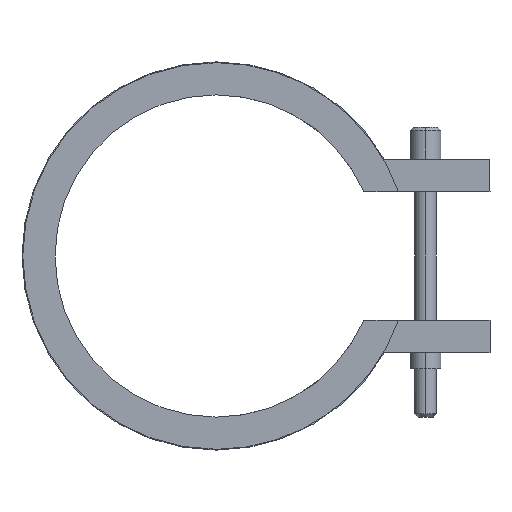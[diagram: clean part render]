
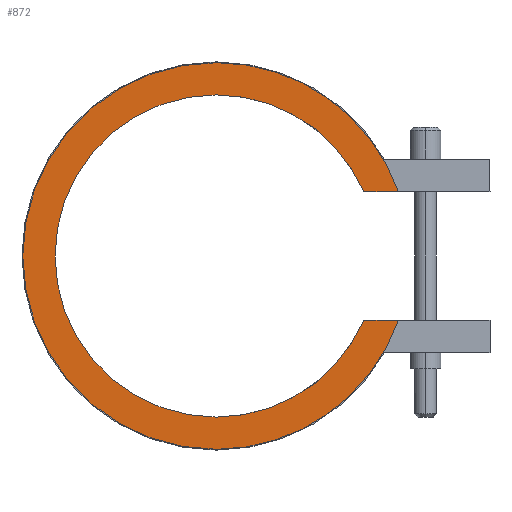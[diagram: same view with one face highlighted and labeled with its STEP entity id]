
A CAD part, left-side view. The second image highlights one B-rep face of the part: STEP entity #872.
In plain terms, the highlighted planar face has unit normal (-1, 0, 0).
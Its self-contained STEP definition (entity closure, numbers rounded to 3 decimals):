
#410=CARTESIAN_POINT('Vertex',(-20.,-18.33,-8.)) ;
#413=CARTESIAN_POINT('Line Origine',(-20.,-20.479,-8.)) ;
#417=CARTESIAN_POINT('Vertex',(-20.,-22.627,-8.)) ;
#463=CARTESIAN_POINT('Vertex',(-20.,0.,-24.)) ;
#466=CARTESIAN_POINT('Axis2P3D Location',(-20.,0.,0.)) ;
#487=CARTESIAN_POINT('Vertex',(-20.,0.,24.)) ;
#490=CARTESIAN_POINT('Axis2P3D Location',(-20.,0.,0.)) ;
#502=CARTESIAN_POINT('Axis2P3D Location',(-20.,0.,0.)) ;
#506=CARTESIAN_POINT('Vertex',(-20.,-22.627,8.)) ;
#526=CARTESIAN_POINT('Line Origine',(-20.,-20.479,8.)) ;
#530=CARTESIAN_POINT('Vertex',(-20.,-18.33,8.)) ;
#818=CARTESIAN_POINT('Axis2P3D Location',(-20.,0.,0.)) ;
#822=CARTESIAN_POINT('Vertex',(-20.,0.,-20.)) ;
#845=CARTESIAN_POINT('Axis2P3D Location',(-20.,0.,0.)) ;
#850=CARTESIAN_POINT('Axis2P3D Location',(-20.,0.,0.)) ;
#854=CARTESIAN_POINT('Vertex',(-20.,0.,20.)) ;
#857=CARTESIAN_POINT('Axis2P3D Location',(-20.,0.,0.)) ;
#414=DIRECTION('Vector Direction',(0.,1.,0.)) ;
#467=DIRECTION('Axis2P3D Direction',(1.,0.,-0.)) ;
#491=DIRECTION('Axis2P3D Direction',(1.,0.,-0.)) ;
#503=DIRECTION('Axis2P3D Direction',(1.,0.,-0.)) ;
#527=DIRECTION('Vector Direction',(0.,-1.,0.)) ;
#819=DIRECTION('Axis2P3D Direction',(1.,0.,-0.)) ;
#846=DIRECTION('Axis2P3D Direction',(1.,0.,0.)) ;
#847=DIRECTION('Axis2P3D XDirection',(0.,0.,-1.)) ;
#851=DIRECTION('Axis2P3D Direction',(1.,0.,0.)) ;
#858=DIRECTION('Axis2P3D Direction',(1.,0.,0.)) ;
#468=AXIS2_PLACEMENT_3D('Circle Axis2P3D',#466,#467,$) ;
#492=AXIS2_PLACEMENT_3D('Circle Axis2P3D',#490,#491,$) ;
#504=AXIS2_PLACEMENT_3D('Circle Axis2P3D',#502,#503,$) ;
#820=AXIS2_PLACEMENT_3D('Circle Axis2P3D',#818,#819,$) ;
#848=AXIS2_PLACEMENT_3D('Plane Axis2P3D',#845,#846,#847) ;
#852=AXIS2_PLACEMENT_3D('Circle Axis2P3D',#850,#851,$) ;
#859=AXIS2_PLACEMENT_3D('Circle Axis2P3D',#857,#858,$) ;
#863=ORIENTED_EDGE('',*,*,#419,.T.) ;
#864=ORIENTED_EDGE('',*,*,#824,.T.) ;
#865=ORIENTED_EDGE('',*,*,#856,.T.) ;
#866=ORIENTED_EDGE('',*,*,#861,.T.) ;
#867=ORIENTED_EDGE('',*,*,#532,.T.) ;
#868=ORIENTED_EDGE('',*,*,#508,.F.) ;
#869=ORIENTED_EDGE('',*,*,#494,.F.) ;
#870=ORIENTED_EDGE('',*,*,#470,.F.) ;
#415=VECTOR('Line Direction',#414,1.) ;
#528=VECTOR('Line Direction',#527,1.) ;
#872=ADVANCED_FACE('14040040',(#871),#849,.F.) ;
#469=CIRCLE('generated circle',#468,24.) ;
#493=CIRCLE('generated circle',#492,24.) ;
#505=CIRCLE('generated circle',#504,24.) ;
#821=CIRCLE('generated circle',#820,20.) ;
#853=CIRCLE('generated circle',#852,20.) ;
#860=CIRCLE('generated circle',#859,20.) ;
#419=EDGE_CURVE('',#418,#411,#416,.T.) ;
#470=EDGE_CURVE('',#418,#464,#469,.T.) ;
#494=EDGE_CURVE('',#464,#488,#493,.T.) ;
#508=EDGE_CURVE('',#488,#507,#505,.T.) ;
#532=EDGE_CURVE('',#531,#507,#529,.T.) ;
#824=EDGE_CURVE('',#411,#823,#821,.T.) ;
#856=EDGE_CURVE('',#823,#855,#853,.T.) ;
#861=EDGE_CURVE('',#855,#531,#860,.T.) ;
#862=EDGE_LOOP('',(#863,#864,#865,#866,#867,#868,#869,#870)) ;
#871=FACE_OUTER_BOUND('',#862,.T.) ;
#416=LINE('Line',#413,#415) ;
#529=LINE('Line',#526,#528) ;
#849=PLANE('Plane',#848) ;
#411=VERTEX_POINT('',#410) ;
#418=VERTEX_POINT('',#417) ;
#464=VERTEX_POINT('',#463) ;
#488=VERTEX_POINT('',#487) ;
#507=VERTEX_POINT('',#506) ;
#531=VERTEX_POINT('',#530) ;
#823=VERTEX_POINT('',#822) ;
#855=VERTEX_POINT('',#854) ;
